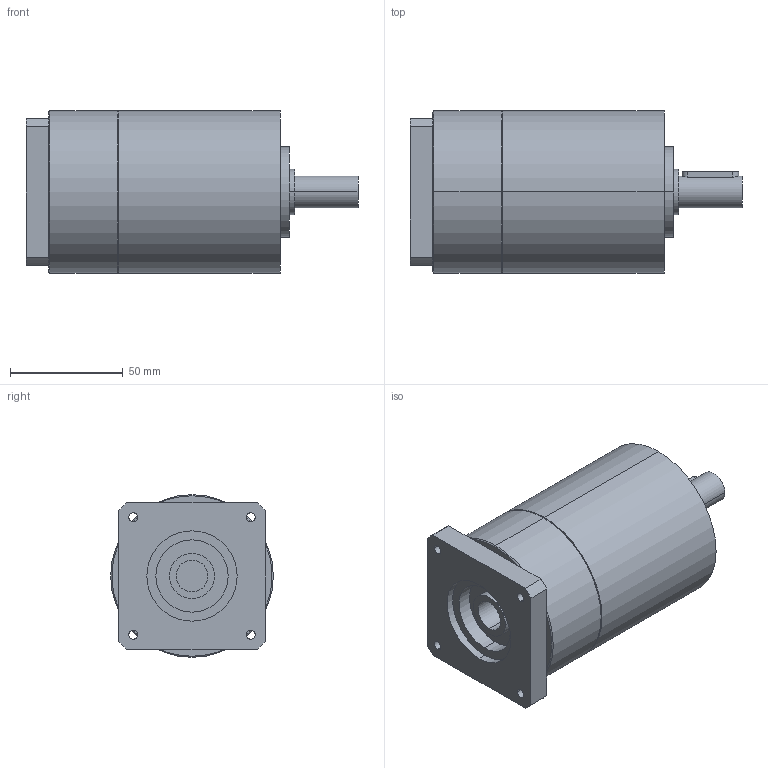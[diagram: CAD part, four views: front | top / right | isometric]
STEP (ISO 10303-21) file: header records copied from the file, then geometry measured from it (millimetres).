
FILE_DESCRIPTION(('CoCreate Modeling STEP Export'),'2;1');
FILE_NAME('GPT75_ig-9-12-16-20-25-28-35-40-50-70-100_14_B14T_14_P34.stp','2014-08-27T13:17:30',(''),(''),'CoCreate Modeling STEP processor for AP214 (Solid Model)','CoCreate Modeling 16.00C 25-Feb-2009 (C) Parametric Technology GmbH','');
FILE_SCHEMA(('AUTOMOTIVE_DESIGN { 1 0 10303 214 1 1 1 1 }'));
Length unit declared in the file: millimetre
Products named in the file (2): GPT75_ig-9-12-16-20-25-28-35-40-50-70-100_14_B14T_14_P34
Assembly tree (1 placements, depth 2):
  GPT75_ig-9-12-16-20-25-28-35-40-50-70-100_14_B14T_14_P34
    GPT75_ig-9-12-16-20-25-28-35-40-50-70-100_14_B14T_14_P34
Bounding box: 147 x 72 x 72 mm (x, y, z)
Volume: 454678.6 mm3; surface area: 40852.7 mm2
Topology: 1 solids, 1 shells, 80 faces, 198 edges, 129 vertices
Faces by surface type: cylinder 42, plane 34, cone 4
Entity records: 2353 total; most frequent: CARTESIAN_POINT 689, ORIENTED_EDGE 396, DIRECTION 276, EDGE_CURVE 198, VERTEX_POINT 129, AXIS2_PLACEMENT_3D 104, EDGE_LOOP 97, FACE_OUTER_BOUND 80
